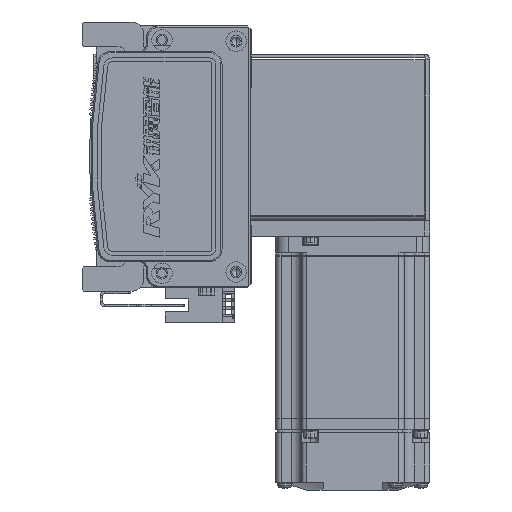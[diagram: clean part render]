
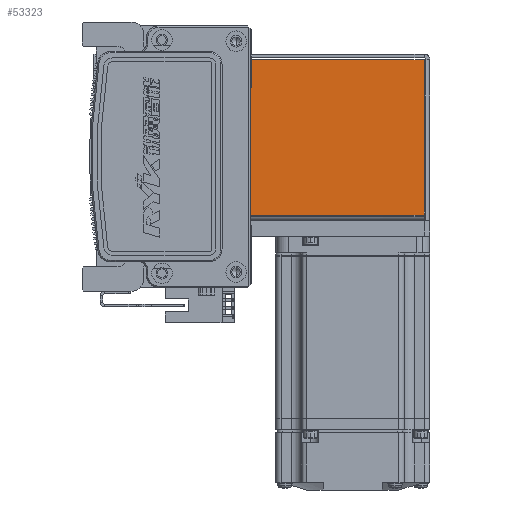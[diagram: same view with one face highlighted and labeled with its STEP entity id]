
A CAD part, left-side view. The second image highlights one B-rep face of the part: STEP entity #53323.
In plain terms, the highlighted planar face has unit normal (-1, 0, 0) as drawn and (0, 0, -1) by its records, which use the part's own axes.
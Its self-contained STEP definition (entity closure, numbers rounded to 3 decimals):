
#97 = CARTESIAN_POINT ( 'NONE',  ( 30.263, 72.5, -35. ) ) ;
#1948 = CARTESIAN_POINT ( 'NONE',  ( 32.5, 0.737, -35. ) ) ;
#3882 = CARTESIAN_POINT ( 'NONE',  ( -30.293, 0., -35. ) ) ;
#8897 = DIRECTION ( 'NONE',  ( 0., -1., 0. ) ) ;
#9656 = DIRECTION ( 'NONE',  ( 0., -1., 0. ) ) ;
#9807 = CARTESIAN_POINT ( 'NONE',  ( 0., 72.5, -35. ) ) ;
#12493 = LINE ( 'NONE', #61494, #26103 ) ;
#17596 = VERTEX_POINT ( 'NONE', #66965 ) ;
#26103 = VECTOR ( 'NONE', #9656, 1000. ) ;
#28748 = VECTOR ( 'NONE', #33117, 1000. ) ;
#31707 = VECTOR ( 'NONE', #74111, 1000. ) ;
#32967 = ORIENTED_EDGE ( 'NONE', *, *, #42881, .T. ) ;
#33117 = DIRECTION ( 'NONE',  ( 0., 1., 0. ) ) ;
#33835 = VECTOR ( 'NONE', #58921, 1000. ) ;
#35400 = ORIENTED_EDGE ( 'NONE', *, *, #62559, .T. ) ;
#36734 = FACE_OUTER_BOUND ( 'NONE', #70189, .T. ) ;
#37159 = LINE ( 'NONE', #9807, #31707 ) ;
#37448 = LINE ( 'NONE', #1948, #33835 ) ;
#37996 = CARTESIAN_POINT ( 'NONE',  ( 30.263, 0.737, -35. ) ) ;
#38118 = PLANE ( 'NONE',  #48820 ) ;
#42881 = EDGE_CURVE ( 'NONE', #48401, #59899, #12493, .T. ) ;
#45485 = CARTESIAN_POINT ( 'NONE',  ( -30.293, 0.737, -35. ) ) ;
#48401 = VERTEX_POINT ( 'NONE', #97 ) ;
#48820 = AXIS2_PLACEMENT_3D ( 'NONE', #55180, #49830, #8897 ) ;
#49830 = DIRECTION ( 'NONE',  ( 0., 0., 1. ) ) ;
#50643 = ORIENTED_EDGE ( 'NONE', *, *, #65734, .F. ) ;
#51490 = LINE ( 'NONE', #3882, #28748 ) ;
#53323 = ADVANCED_FACE ( 'NONE', ( #36734 ), #38118, .F. ) ;
#55180 = CARTESIAN_POINT ( 'NONE',  ( 0., 0., -35. ) ) ;
#58107 = EDGE_CURVE ( 'NONE', #70134, #17596, #51490, .T. ) ;
#58921 = DIRECTION ( 'NONE',  ( 1., 0., 0. ) ) ;
#59899 = VERTEX_POINT ( 'NONE', #37996 ) ;
#61494 = CARTESIAN_POINT ( 'NONE',  ( 30.263, 72.5, -35. ) ) ;
#62559 = EDGE_CURVE ( 'NONE', #17596, #48401, #37159, .T. ) ;
#65734 = EDGE_CURVE ( 'NONE', #70134, #59899, #37448, .T. ) ;
#66965 = CARTESIAN_POINT ( 'NONE',  ( -30.293, 72.5, -35. ) ) ;
#70134 = VERTEX_POINT ( 'NONE', #45485 ) ;
#70189 = EDGE_LOOP ( 'NONE', ( #32967, #50643, #71646, #35400 ) ) ;
#71646 = ORIENTED_EDGE ( 'NONE', *, *, #58107, .T. ) ;
#74111 = DIRECTION ( 'NONE',  ( 1., 0., 0. ) ) ;
